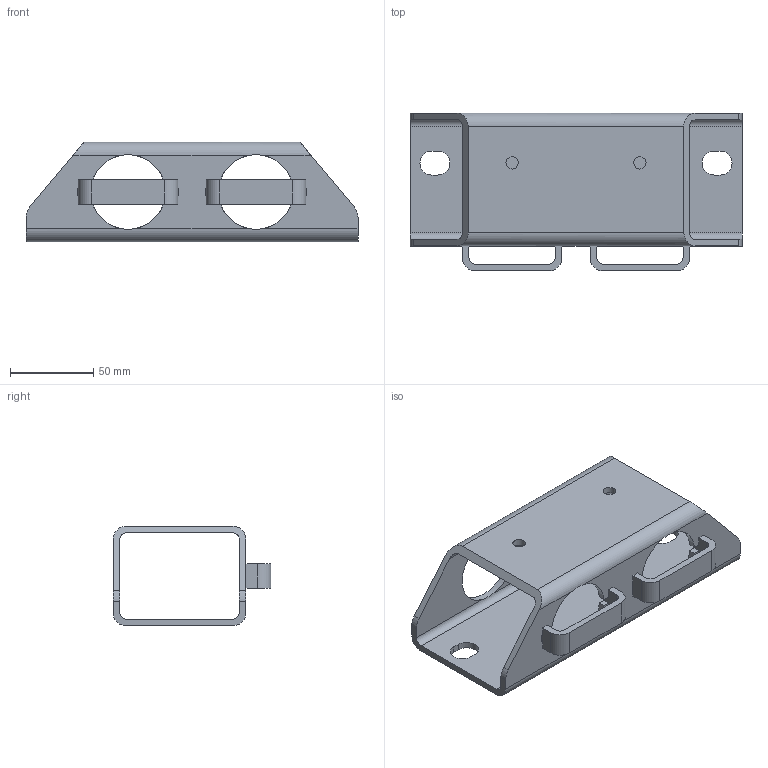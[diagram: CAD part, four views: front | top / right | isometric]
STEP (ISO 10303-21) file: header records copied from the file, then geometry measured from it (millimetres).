
FILE_DESCRIPTION((''),'2;1');
FILE_NAME('S:\Användarkataloger\AndreasA\Mina Inventor filer\Räcken\STEP\fäste_R10.stp','2010-09-07T13:57:30',('AndreasA'),(''),'Autodesk Inventor 2011','Autodesk Inventor 2011','');
FILE_SCHEMA(('AUTOMOTIVE_DESIGN { 1 0 10303 214 1 1 1 1 }'));
Length unit declared in the file: millimetre
Products named in the file (3): fäste_R10; fäste_r10; stopp_r9_r10
Assembly tree (3 placements, depth 2):
  fäste_R10
    fäste_r10
    stopp_r9_r10  x2
Bounding box: 200 x 95 x 60 mm (x, y, z)
Volume: 154859.3 mm3; surface area: 84530.3 mm2
Topology: 3 solids, 3 shells, 112 faces, 330 edges, 214 vertices
Faces by surface type: plane 72, cylinder 36, bspline 4
Full cylindrical faces by diameter (mm): 7.4 x2, 45 x2
Entity records: 3274 total; most frequent: CARTESIAN_POINT 744, ORIENTED_EDGE 528, DIRECTION 500, EDGE_CURVE 264, VECTOR 180, LINE 180, VERTEX_POINT 172, AXIS2_PLACEMENT_3D 160
